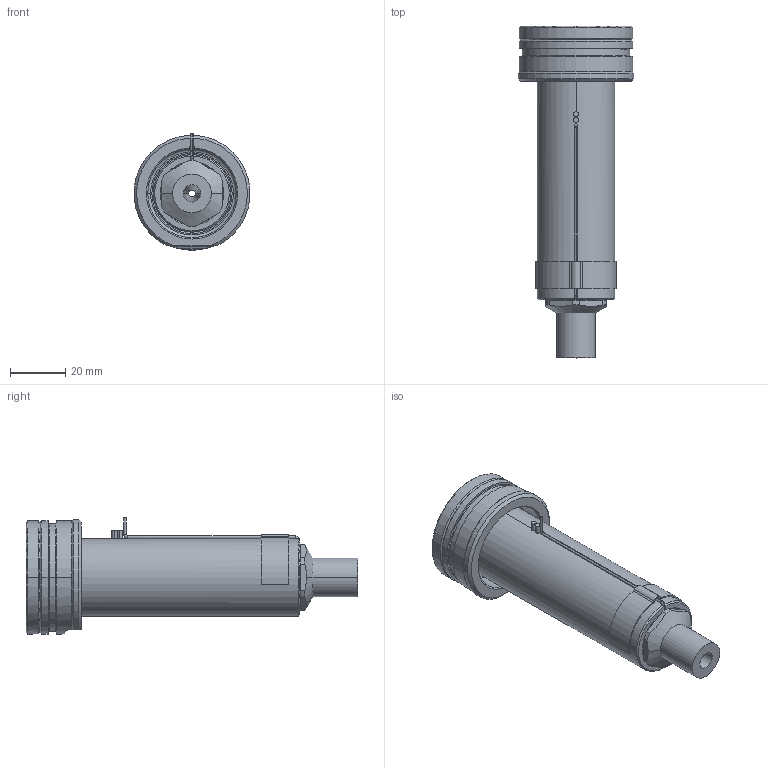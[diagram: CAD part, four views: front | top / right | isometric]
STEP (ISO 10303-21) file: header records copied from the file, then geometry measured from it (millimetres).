
FILE_DESCRIPTION((''),'2;1');
FILE_NAME('EO10_SG_ESG_090_SW','2024-02-19T12:25:51',('sundharh'),(''),'CREO PARAMETRIC BY PTC INC, 2023154','CREO PARAMETRIC BY PTC INC, 2023154','');
FILE_SCHEMA(('CONFIG_CONTROL_DESIGN'));
Length unit declared in the file: millimetre
Products named in the file (1): EO10_SG_ESG_090_SW
Bounding box: 41.85 x 120 x 42.02 mm (x, y, z)
Volume: 68477.4 mm3; surface area: 19675.3 mm2
Topology: 1 solids, 1 shells, 160 faces, 409 edges, 252 vertices
Faces by surface type: cylinder 63, plane 45, cone 29, torus 17, bspline 3, sphere 3
Entity records: 5514 total; most frequent: CARTESIAN_POINT 1565, DIRECTION 857, ORIENTED_EDGE 810, EDGE_CURVE 405, AXIS2_PLACEMENT_3D 353, VERTEX_POINT 252, CIRCLE 196, EDGE_LOOP 175
